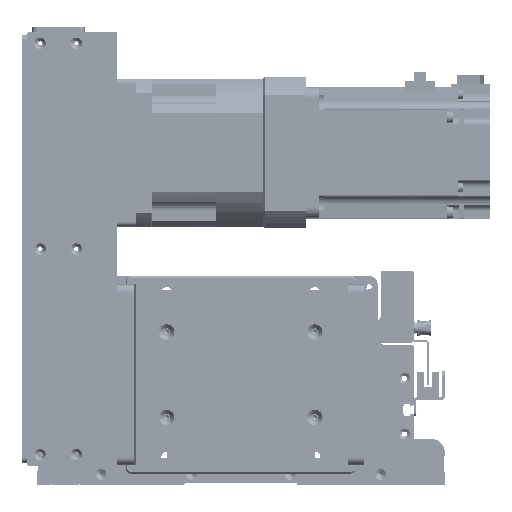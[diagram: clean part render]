
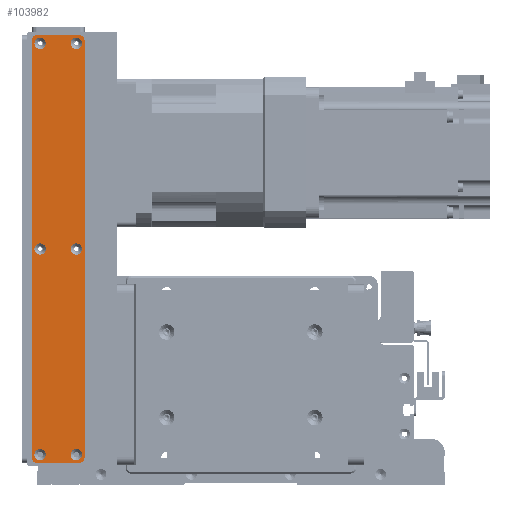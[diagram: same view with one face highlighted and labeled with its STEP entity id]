
A CAD part, front view. The second image highlights one B-rep face of the part: STEP entity #103982.
In plain terms, the highlighted planar face has unit normal (0, -1, 0).
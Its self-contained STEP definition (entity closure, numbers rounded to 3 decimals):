
#2603=FACE_BOUND('',#19178,.T.);
#2604=FACE_BOUND('',#19179,.T.);
#2605=FACE_BOUND('',#19180,.T.);
#2606=FACE_BOUND('',#19181,.T.);
#2607=FACE_BOUND('',#19182,.T.);
#2608=FACE_BOUND('',#19183,.T.);
#6451=PLANE('',#113087);
#12951=FACE_OUTER_BOUND('',#19177,.T.);
#19177=EDGE_LOOP('',(#98273,#98274,#98275,#98276,#98277,#98278,#98279,#98280));
#19178=EDGE_LOOP('',(#98281));
#19179=EDGE_LOOP('',(#98282));
#19180=EDGE_LOOP('',(#98283));
#19181=EDGE_LOOP('',(#98284));
#19182=EDGE_LOOP('',(#98285));
#19183=EDGE_LOOP('',(#98286));
#30540=LINE('',#175329,#41896);
#30541=LINE('',#175333,#41897);
#30542=LINE('',#175337,#41898);
#30543=LINE('',#175340,#41899);
#41896=VECTOR('',#141111,10.);
#41897=VECTOR('',#141114,10.);
#41898=VECTOR('',#141117,10.);
#41899=VECTOR('',#141120,10.);
#44569=CIRCLE('',#113055,3.45);
#44572=CIRCLE('',#113060,3.45);
#44575=CIRCLE('',#113065,3.45);
#44578=CIRCLE('',#113070,3.45);
#44581=CIRCLE('',#113075,3.45);
#44584=CIRCLE('',#113080,3.45);
#44587=CIRCLE('',#113085,3.);
#44589=CIRCLE('',#113088,3.);
#44590=CIRCLE('',#113089,3.);
#44591=CIRCLE('',#113090,3.);
#54327=VERTEX_POINT('',#175259);
#54330=VERTEX_POINT('',#175269);
#54333=VERTEX_POINT('',#175279);
#54336=VERTEX_POINT('',#175289);
#54339=VERTEX_POINT('',#175299);
#54342=VERTEX_POINT('',#175309);
#54345=VERTEX_POINT('',#175319);
#54346=VERTEX_POINT('',#175320);
#54349=VERTEX_POINT('',#175328);
#54350=VERTEX_POINT('',#175330);
#54351=VERTEX_POINT('',#175332);
#54352=VERTEX_POINT('',#175334);
#54353=VERTEX_POINT('',#175336);
#54354=VERTEX_POINT('',#175338);
#68963=EDGE_CURVE('',#54327,#54327,#44569,.T.);
#68968=EDGE_CURVE('',#54330,#54330,#44572,.T.);
#68973=EDGE_CURVE('',#54333,#54333,#44575,.T.);
#68978=EDGE_CURVE('',#54336,#54336,#44578,.T.);
#68983=EDGE_CURVE('',#54339,#54339,#44581,.T.);
#68988=EDGE_CURVE('',#54342,#54342,#44584,.T.);
#68993=EDGE_CURVE('',#54345,#54346,#44587,.T.);
#68997=EDGE_CURVE('',#54345,#54349,#30540,.T.);
#68998=EDGE_CURVE('',#54350,#54349,#44589,.T.);
#68999=EDGE_CURVE('',#54350,#54351,#30541,.T.);
#69000=EDGE_CURVE('',#54352,#54351,#44590,.T.);
#69001=EDGE_CURVE('',#54352,#54353,#30542,.T.);
#69002=EDGE_CURVE('',#54354,#54353,#44591,.T.);
#69003=EDGE_CURVE('',#54354,#54346,#30543,.T.);
#98273=ORIENTED_EDGE('',*,*,#68993,.F.);
#98274=ORIENTED_EDGE('',*,*,#68997,.T.);
#98275=ORIENTED_EDGE('',*,*,#68998,.F.);
#98276=ORIENTED_EDGE('',*,*,#68999,.T.);
#98277=ORIENTED_EDGE('',*,*,#69000,.F.);
#98278=ORIENTED_EDGE('',*,*,#69001,.T.);
#98279=ORIENTED_EDGE('',*,*,#69002,.F.);
#98280=ORIENTED_EDGE('',*,*,#69003,.T.);
#98281=ORIENTED_EDGE('',*,*,#68963,.T.);
#98282=ORIENTED_EDGE('',*,*,#68968,.T.);
#98283=ORIENTED_EDGE('',*,*,#68973,.T.);
#98284=ORIENTED_EDGE('',*,*,#68978,.T.);
#98285=ORIENTED_EDGE('',*,*,#68983,.T.);
#98286=ORIENTED_EDGE('',*,*,#68988,.T.);
#103982=ADVANCED_FACE('',(#12951,#2603,#2604,#2605,#2606,#2607,#2608),#6451,
 .T.);
#113055=AXIS2_PLACEMENT_3D('',#175260,#141031,#141032);
#113060=AXIS2_PLACEMENT_3D('',#175270,#141043,#141044);
#113065=AXIS2_PLACEMENT_3D('',#175280,#141055,#141056);
#113070=AXIS2_PLACEMENT_3D('',#175290,#141067,#141068);
#113075=AXIS2_PLACEMENT_3D('',#175300,#141079,#141080);
#113080=AXIS2_PLACEMENT_3D('',#175310,#141091,#141092);
#113085=AXIS2_PLACEMENT_3D('',#175321,#141103,#141104);
#113087=AXIS2_PLACEMENT_3D('',#175327,#141109,#141110);
#113088=AXIS2_PLACEMENT_3D('',#175331,#141112,#141113);
#113089=AXIS2_PLACEMENT_3D('',#175335,#141115,#141116);
#113090=AXIS2_PLACEMENT_3D('',#175339,#141118,#141119);
#141031=DIRECTION('center_axis',(0.,1.,0.));
#141032=DIRECTION('ref_axis',(1.,0.,0.));
#141043=DIRECTION('center_axis',(0.,1.,0.));
#141044=DIRECTION('ref_axis',(1.,0.,0.));
#141055=DIRECTION('center_axis',(0.,1.,0.));
#141056=DIRECTION('ref_axis',(1.,0.,0.));
#141067=DIRECTION('center_axis',(0.,1.,0.));
#141068=DIRECTION('ref_axis',(1.,0.,0.));
#141079=DIRECTION('center_axis',(0.,1.,0.));
#141080=DIRECTION('ref_axis',(1.,0.,0.));
#141091=DIRECTION('center_axis',(0.,1.,0.));
#141092=DIRECTION('ref_axis',(1.,0.,0.));
#141103=DIRECTION('center_axis',(0.,1.,0.));
#141104=DIRECTION('ref_axis',(-0.707,0.,0.707));
#141109=DIRECTION('center_axis',(0.,-1.,0.));
#141110=DIRECTION('ref_axis',(0.,0.,-1.));
#141111=DIRECTION('',(0.,0.,-1.));
#141112=DIRECTION('center_axis',(0.,1.,0.));
#141113=DIRECTION('ref_axis',(-0.707,0.,-0.707));
#141114=DIRECTION('',(1.,0.,0.));
#141115=DIRECTION('center_axis',(0.,1.,0.));
#141116=DIRECTION('ref_axis',(0.707,0.,-0.707));
#141117=DIRECTION('',(0.,0.,1.));
#141118=DIRECTION('center_axis',(0.,1.,0.));
#141119=DIRECTION('ref_axis',(0.707,0.,0.707));
#141120=DIRECTION('',(-1.,0.,0.));
#175259=CARTESIAN_POINT('',(121.55,-1.5,11.));
#175260=CARTESIAN_POINT('Origin',(125.,-1.5,11.));
#175269=CARTESIAN_POINT('',(-3.45,-1.5,11.));
#175270=CARTESIAN_POINT('Origin',(0.,-1.5,11.));
#175279=CARTESIAN_POINT('',(-128.45,-1.5,11.));
#175280=CARTESIAN_POINT('Origin',(-125.,-1.5,11.));
#175289=CARTESIAN_POINT('',(-128.45,-1.5,-11.));
#175290=CARTESIAN_POINT('Origin',(-125.,-1.5,-11.));
#175299=CARTESIAN_POINT('',(-3.45,-1.5,-11.));
#175300=CARTESIAN_POINT('Origin',(0.,-1.5,-11.));
#175309=CARTESIAN_POINT('',(121.55,-1.5,-11.));
#175310=CARTESIAN_POINT('Origin',(125.,-1.5,-11.));
#175319=CARTESIAN_POINT('',(-130.,-1.5,13.));
#175320=CARTESIAN_POINT('',(-127.,-1.5,16.));
#175321=CARTESIAN_POINT('Origin',(-127.,-1.5,13.));
#175327=CARTESIAN_POINT('Origin',(0.,-1.5,0.));
#175328=CARTESIAN_POINT('',(-130.,-1.5,-13.));
#175329=CARTESIAN_POINT('',(-130.,-1.5,16.));
#175330=CARTESIAN_POINT('',(-127.,-1.5,-16.));
#175331=CARTESIAN_POINT('Origin',(-127.,-1.5,-13.));
#175332=CARTESIAN_POINT('',(127.,-1.5,-16.));
#175333=CARTESIAN_POINT('',(-130.,-1.5,-16.));
#175334=CARTESIAN_POINT('',(130.,-1.5,-13.));
#175335=CARTESIAN_POINT('Origin',(127.,-1.5,-13.));
#175336=CARTESIAN_POINT('',(130.,-1.5,13.));
#175337=CARTESIAN_POINT('',(130.,-1.5,-16.));
#175338=CARTESIAN_POINT('',(127.,-1.5,16.));
#175339=CARTESIAN_POINT('Origin',(127.,-1.5,13.));
#175340=CARTESIAN_POINT('',(130.,-1.5,16.));
